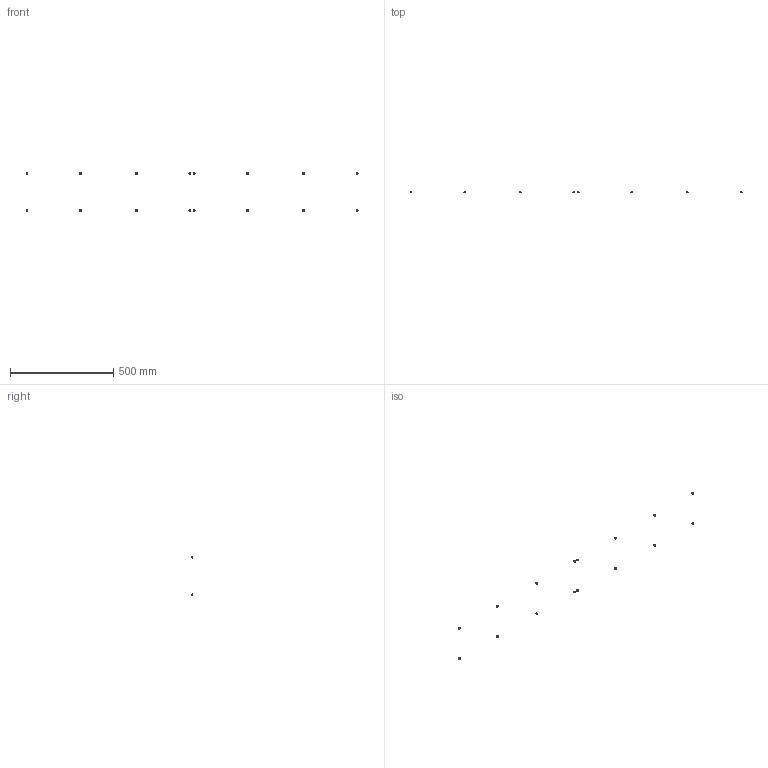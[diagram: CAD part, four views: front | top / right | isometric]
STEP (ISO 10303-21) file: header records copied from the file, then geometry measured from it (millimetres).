
FILE_DESCRIPTION(/* description */ (''),/* implementation_level */ '2;1');
FILE_NAME(/* name */ '14.frame-panels#14.2#BCB5-6',/* time_stamp */ '2014-12-01T20:20:02+01:00',/* author */ (''),/* organization */ (''),/* preprocessor_version */ 'ST-DEVELOPER v14',/* originating_system */ '',/* authorisation */ '');
FILE_SCHEMA (('AUTOMOTIVE_DESIGN'));
Length unit declared in the file: millimetre
Products named in the file (2): Document; screw ISO7380-like, button, M5x06
Assembly tree (8 placements, depth 2):
  Document
    screw ISO7380-like, button, M5x06  x8
Bounding box: 1609.46 x 8.75 x 189.5 mm (x, y, z)
Volume: 4122.2 mm3; surface area: 4620.6 mm2
Topology: 16 solids, 16 shells, 400 faces, 928 edges, 560 vertices
Faces by surface type: plane 240, bspline 160
Entity records: 13713 total; most frequent: CARTESIAN_POINT 6905, B_SPLINE_CURVE_WITH_KNOTS 1134, ORIENTED_EDGE 1008, PCURVE 1008, DEFINITIONAL_REPRESENTATION 1008, SURFACE_CURVE 504, EDGE_CURVE 504, VERTEX_POINT 315
